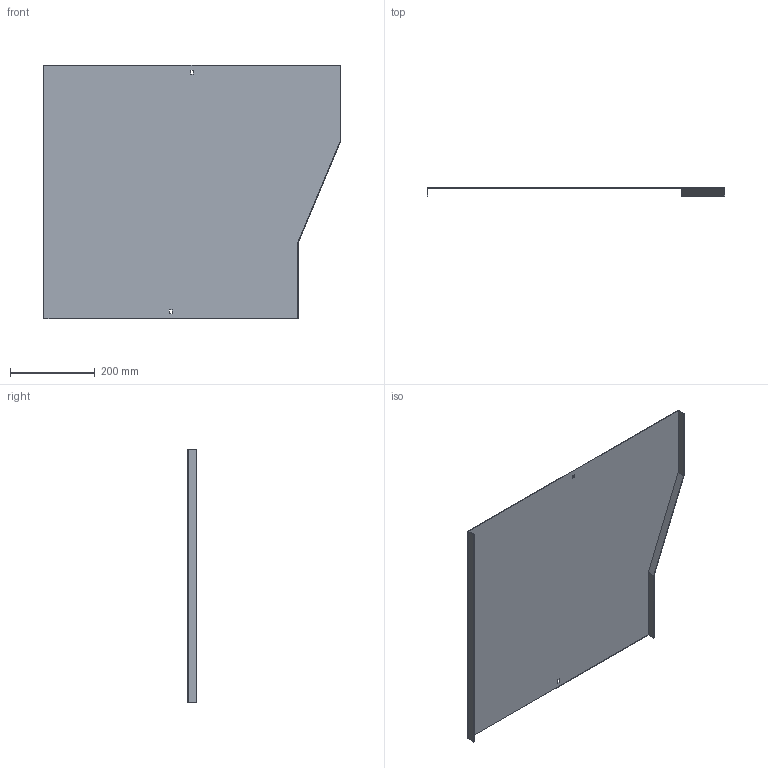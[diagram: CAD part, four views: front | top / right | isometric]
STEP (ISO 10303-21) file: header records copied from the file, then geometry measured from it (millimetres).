
FILE_DESCRIPTION (( 'STEP AP214' ), '1' );
FILE_NAME ('B2X22N6R700X.step', '2025-09-02T15:45:37', ( '' ), ( '' ), 'SwSTEP 2.0', 'SolidWorks 2023', '' );
FILE_SCHEMA (( 'AUTOMOTIVE_DESIGN' ));
Length unit declared in the file: millimetre
Products named in the file (1): B2X22N6R700X
Bounding box: 703 x 20 x 600 mm (x, y, z)
Volume: 621379.5 mm3; surface area: 832499 mm2
Topology: 1 solids, 1 shells, 22 faces, 60 edges, 40 vertices
Faces by surface type: plane 22
Entity records: 715 total; most frequent: CARTESIAN_POINT 123, ORIENTED_EDGE 120, DIRECTION 106, VECTOR 60, EDGE_CURVE 60, LINE 60, VERTEX_POINT 40, EDGE_LOOP 26
